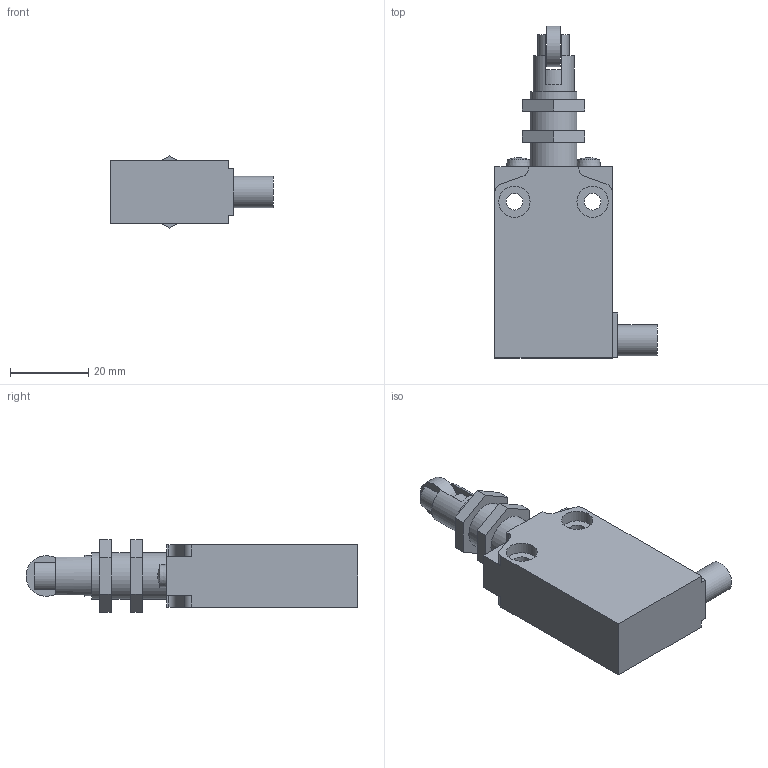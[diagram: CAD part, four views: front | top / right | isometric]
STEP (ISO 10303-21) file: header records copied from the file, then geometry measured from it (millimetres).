
FILE_DESCRIPTION((''),'2;1');
FILE_NAME('C:\Workarea\Disegni\Comepi\Catalogo\Stp\Finecorsa\EM1G24.iam.step','2011-07-22T16:16:38',(''),(''),'Autodesk Inventor 2012','Autodesk Inventor 2012','');
FILE_SCHEMA(('AUTOMOTIVE_DESIGN { 1 0 10303 214 1 1 1 1 }'));
Length unit declared in the file: millimetre
Products named in the file (6): EM1G24; EM1; G22; G22_1; G22_2; G22_3
Assembly tree (6 placements, depth 3):
  EM1G24
    EM1
    G22
      G22_1
      G22_2  x2
      G22_3
Bounding box: 41.5 x 85 x 18.48 mm (x, y, z)
Volume: 26452.6 mm3; surface area: 9795 mm2
Topology: 6 solids, 6 shells, 90 faces, 208 edges, 138 vertices
Faces by surface type: plane 62, cylinder 22, torus 2, cone 2, sphere 2
Full cylindrical faces by diameter (mm): 4.3 x2, 8 x7, 10.4 x1, 10.5 x1, 12 x3
Entity records: 2380 total; most frequent: DIRECTION 410, CARTESIAN_POINT 381, ORIENTED_EDGE 334, EDGE_CURVE 167, AXIS2_PLACEMENT_3D 150, VERTEX_POINT 121, EDGE_LOOP 112, VECTOR 110
